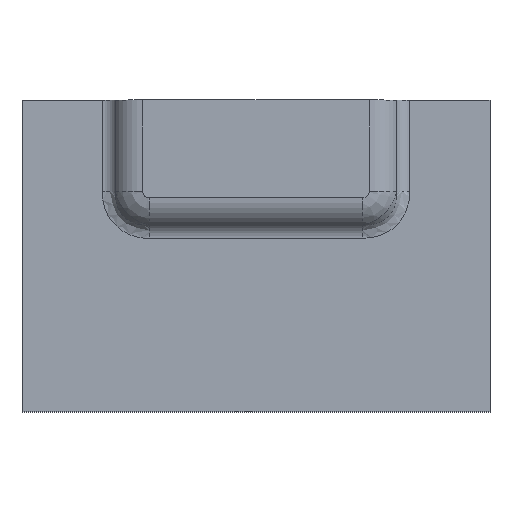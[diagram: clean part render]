
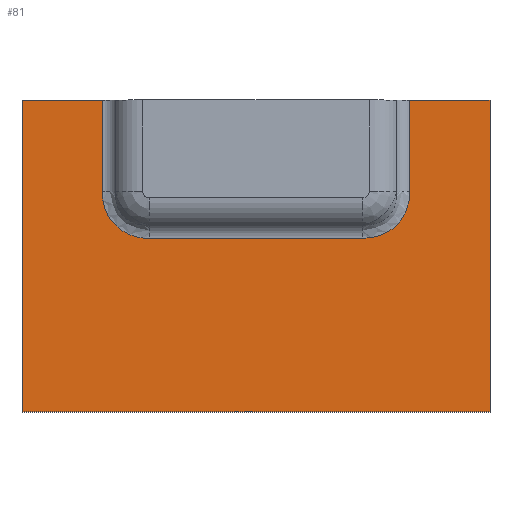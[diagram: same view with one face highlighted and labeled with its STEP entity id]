
A CAD part, top view. The second image highlights one B-rep face of the part: STEP entity #81.
In plain terms, the highlighted planar face has unit normal (0, 0, 1).
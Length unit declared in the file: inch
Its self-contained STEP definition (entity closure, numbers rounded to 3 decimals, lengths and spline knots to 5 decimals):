
#81=ADVANCED_FACE('',(#120),#121,.T.);
#120=FACE_OUTER_BOUND('',#184,.T.);
#121=PLANE('',#185);
#184=EDGE_LOOP('',(#698,#699,#700,#701,#702,#703,#704,#705,#706,#707));
#185=AXIS2_PLACEMENT_3D('',#708,#709,#710);
#698=ORIENTED_EDGE('',*,*,#891,.T.);
#699=ORIENTED_EDGE('',*,*,#897,.T.);
#700=ORIENTED_EDGE('',*,*,#898,.F.);
#701=ORIENTED_EDGE('',*,*,#899,.F.);
#702=ORIENTED_EDGE('',*,*,#900,.F.);
#703=ORIENTED_EDGE('',*,*,#901,.F.);
#704=ORIENTED_EDGE('',*,*,#902,.F.);
#705=ORIENTED_EDGE('',*,*,#903,.F.);
#706=ORIENTED_EDGE('',*,*,#904,.F.);
#707=ORIENTED_EDGE('',*,*,#894,.T.);
#708=CARTESIAN_POINT('',(-3.859,1.295,0.75));
#709=DIRECTION('',(0.0,0.0,1.0));
#710=DIRECTION('',(1.0,0.0,0.0));
#891=EDGE_CURVE('',#983,#980,#984,.F.);
#894=EDGE_CURVE('',#988,#983,#989,.T.);
#897=EDGE_CURVE('',#980,#993,#994,.F.);
#898=EDGE_CURVE('',#995,#993,#996,.T.);
#899=EDGE_CURVE('',#997,#995,#998,.T.);
#900=EDGE_CURVE('',#999,#997,#1000,.T.);
#901=EDGE_CURVE('',#1001,#999,#1002,.T.);
#902=EDGE_CURVE('',#1003,#1001,#1004,.T.);
#903=EDGE_CURVE('',#1005,#1003,#1006,.T.);
#904=EDGE_CURVE('',#988,#1005,#1007,.T.);
#980=VERTEX_POINT('',#1140);
#983=VERTEX_POINT('',#1144);
#984=LINE('',#1145,#1146);
#988=VERTEX_POINT('',#1152);
#989=LINE('',#1153,#1154);
#993=VERTEX_POINT('',#1160);
#994=LINE('',#1161,#1162);
#995=VERTEX_POINT('',#1163);
#996=LINE('',#1164,#1165);
#997=VERTEX_POINT('',#1166);
#998=LINE('',#1167,#1168);
#999=VERTEX_POINT('',#1169);
#1000=B_SPLINE_CURVE_WITH_KNOTS('',3,(#1170,#1171,#1172,#1173,#1174,#1175,#1176,#1177,#1178,#1179,#1180),.UNSPECIFIED.,.F.,.F.,(4,1,1,1,1,1,1,1,4),(0.0,0.125,0.25,0.375,0.5,0.625,0.75,0.875,1.0),.UNSPECIFIED.);
#1001=VERTEX_POINT('',#1181);
#1002=LINE('',#1182,#1183);
#1003=VERTEX_POINT('',#1184);
#1004=B_SPLINE_CURVE_WITH_KNOTS('',3,(#1185,#1186,#1187,#1188,#1189,#1190,#1191,#1192,#1193,#1194,#1195),.UNSPECIFIED.,.F.,.F.,(4,1,1,1,1,1,1,1,4),(0.0,0.125,0.25,0.375,0.5,0.625,0.75,0.875,1.0),.UNSPECIFIED.);
#1005=VERTEX_POINT('',#1196);
#1006=LINE('',#1197,#1198);
#1007=LINE('',#1199,#1200);
#1140=CARTESIAN_POINT('',(-0.625,-0.70475,0.75));
#1144=CARTESIAN_POINT('',(-3.625,-0.70475,0.75));
#1145=CARTESIAN_POINT('',(-2.442,-0.70475,0.75));
#1146=VECTOR('',#1391,1.0);
#1152=CARTESIAN_POINT('',(-3.625,1.295,0.75));
#1153=CARTESIAN_POINT('',(-3.625,0.74913,0.75));
#1154=VECTOR('',#1394,1.0);
#1160=CARTESIAN_POINT('',(-0.625,1.295,0.75));
#1161=CARTESIAN_POINT('',(-0.625,0.74913,0.75));
#1162=VECTOR('',#1397,1.0);
#1163=CARTESIAN_POINT('',(-1.1384,1.295,0.75));
#1164=CARTESIAN_POINT('',(-1.8445,1.295,0.75));
#1165=VECTOR('',#1398,1.0);
#1166=CARTESIAN_POINT('',(-1.1384,0.71151,0.75));
#1167=CARTESIAN_POINT('',(-1.1384,0.66307,0.75));
#1168=VECTOR('',#1399,1.0);
#1169=CARTESIAN_POINT('',(-1.44151,0.4084,0.75));
#1170=CARTESIAN_POINT('',(-1.44151,0.4084,0.75));
#1171=CARTESIAN_POINT('',(-1.41809,0.4084,0.75));
#1172=CARTESIAN_POINT('',(-1.37385,0.4127,0.75));
#1173=CARTESIAN_POINT('',(-1.31501,0.43016,0.75));
#1174=CARTESIAN_POINT('',(-1.26446,0.45684,0.75));
#1175=CARTESIAN_POINT('',(-1.22177,0.4917,0.75));
#1176=CARTESIAN_POINT('',(-1.18686,0.53441,0.75));
#1177=CARTESIAN_POINT('',(-1.16015,0.58503,0.75));
#1178=CARTESIAN_POINT('',(-1.1427,0.64385,0.75));
#1179=CARTESIAN_POINT('',(-1.1384,0.68809,0.75));
#1180=CARTESIAN_POINT('',(-1.1384,0.71151,0.75));
#1181=CARTESIAN_POINT('',(-2.80849,0.4084,0.75));
#1182=CARTESIAN_POINT('',(-2.85693,0.4084,0.75));
#1183=VECTOR('',#1400,1.0);
#1184=CARTESIAN_POINT('',(-3.1116,0.71151,0.75));
#1185=CARTESIAN_POINT('',(-3.1116,0.71151,0.75));
#1186=CARTESIAN_POINT('',(-3.1116,0.68809,0.75));
#1187=CARTESIAN_POINT('',(-3.1073,0.64385,0.75));
#1188=CARTESIAN_POINT('',(-3.08984,0.58501,0.75));
#1189=CARTESIAN_POINT('',(-3.06316,0.53446,0.75));
#1190=CARTESIAN_POINT('',(-3.0283,0.49177,0.75));
#1191=CARTESIAN_POINT('',(-2.98559,0.45686,0.75));
#1192=CARTESIAN_POINT('',(-2.93497,0.43015,0.75));
#1193=CARTESIAN_POINT('',(-2.87615,0.4127,0.75));
#1194=CARTESIAN_POINT('',(-2.83191,0.4084,0.75));
#1195=CARTESIAN_POINT('',(-2.80849,0.4084,0.75));
#1196=CARTESIAN_POINT('',(-3.1116,1.295,0.75));
#1197=CARTESIAN_POINT('',(-3.1116,2.5986,0.75));
#1198=VECTOR('',#1401,1.0);
#1199=CARTESIAN_POINT('',(-1.8445,1.295,0.75));
#1200=VECTOR('',#1402,1.0);
#1391=DIRECTION('',(-1.0,0.0,0.0));
#1394=DIRECTION('',(0.0,-1.0,0.0));
#1397=DIRECTION('',(0.0,-1.0,0.0));
#1398=DIRECTION('',(1.0,0.0,-0.0));
#1399=DIRECTION('',(0.0,1.0,0.0));
#1400=DIRECTION('',(1.0,0.0,0.0));
#1401=DIRECTION('',(-0.0,-1.0,0.0));
#1402=DIRECTION('',(1.0,0.0,-0.0));
